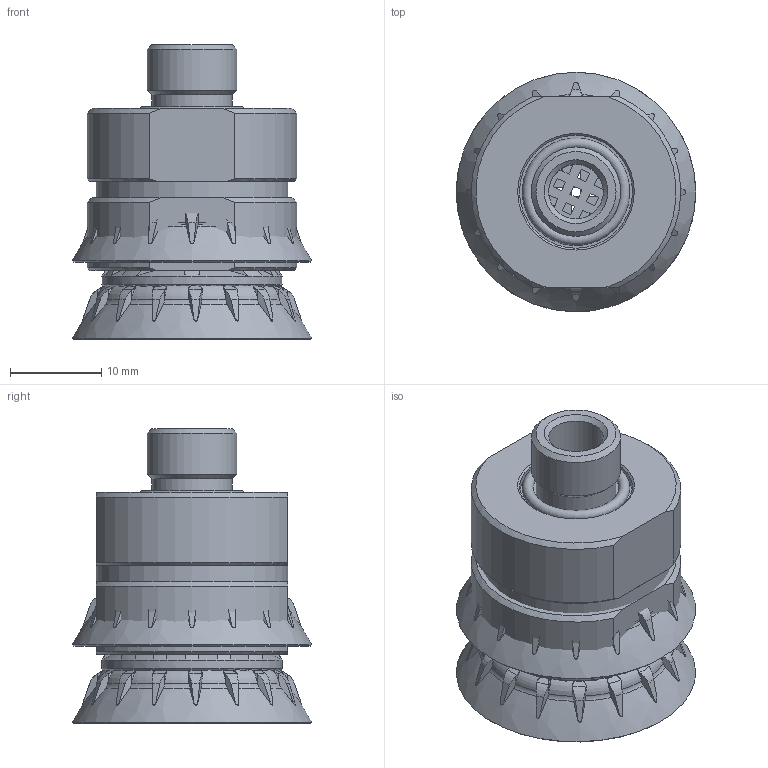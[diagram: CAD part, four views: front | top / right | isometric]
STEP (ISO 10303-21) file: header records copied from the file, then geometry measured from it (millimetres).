
FILE_DESCRIPTION( ( 'Unknown' ), '1' );
FILE_NAME( 'D:/夢嘐摹/嘐摹/B1.5 Magic Suction Cup/3D/B1.5-20-X25-S-A-18M.stp', 'Unknown', ( 'Unknown' ), ( 'Unknown' ), 'PSStep 10.0', 'Unknown', ' ' );
FILE_SCHEMA( ( 'AUTOMOTIVE_DESIGN { 1 0 10303 214 1 1 1 1 }' ) );
Length unit declared in the file: millimetre
Products named in the file (8): Assem1; B2.5-20-X25_0; B2.5-20-stopperA_20131004_0; B2.5-20-18M-RING_0; 9.5-繹蜂; 14M-oring_0; B2.5-20-18M_0; B1.5-20_0
Bounding box: 26.28 x 26.28 x 32.33 mm (x, y, z)
Volume: 12702.9 mm3; surface area: 14645.3 mm2
Topology: 14 solids, 14 shells, 1502 faces, 3898 edges, 2454 vertices
Faces by surface type: plane 506, cylinder 338, torus 330, cone 198, bspline 130
Full cylindrical faces by diameter (mm): 6 x2, 8 x2, 8.8 x2, 9.5 x4, 9.8 x4, 11.9 x4, 12.4 x2, 13 x4, 13.4 x2, 14.4 x2, 15 x4, 15.7 x2, 16 x2, 17 x2, 17.5 x2, 19.8 x2, 21 x2, 23 x2
Entity records: 35102 total; most frequent: CARTESIAN_POINT 12405, ORIENTED_EDGE 3706, DIRECTION 2977, EDGE_CURVE 1853, AXIS2_PLACEMENT_3D 1247, VERTEX_POINT 1218, EDGE_LOOP 889, B_SPLINE_CURVE_WITH_KNOTS 817
